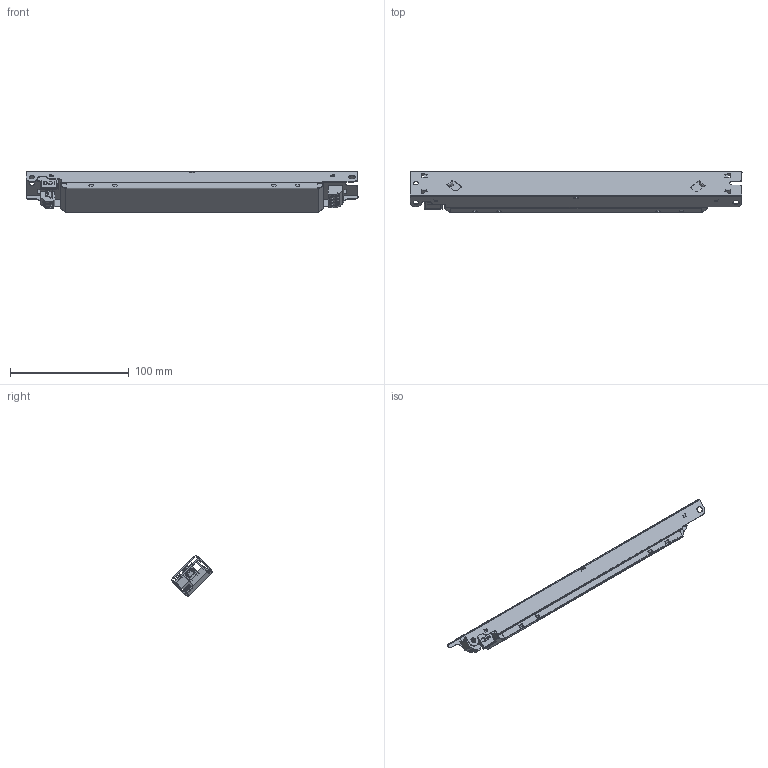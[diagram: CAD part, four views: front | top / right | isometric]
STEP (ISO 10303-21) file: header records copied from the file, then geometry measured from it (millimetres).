
FILE_DESCRIPTION (( 'STEP AP203' ), '1' );
FILE_NAME ('LL50SE-FD.STEP', '2020-03-16T08:25:35', ( '' ), ( '' ), 'SwSTEP 2.0', 'SolidWorks 2014', '' );
FILE_SCHEMA (( 'CONFIG_CONTROL_DESIGN' ));
Length unit declared in the file: millimetre
Products named in the file (8): D007920_cover 16mm; akselikokeilu; 4n; 2n; nfc_antenni; LL50SE-FD; PCB_256; 353620450
Assembly tree (7 placements, depth 2):
  LL50SE-FD
    akselikokeilu
    D007920_cover 16mm
    PCB_256
    4n
    2n
    353620450
    nfc_antenni
Bounding box: 280 x 35.32 x 35.22 mm (x, y, z)
Volume: 28303.2 mm3; surface area: 73242.6 mm2
Topology: 7 solids, 7 shells, 1341 faces, 3521 edges, 2229 vertices
Faces by surface type: plane 915, cylinder 352, bspline 36, torus 16, cone 12, sphere 10
Entity records: 42364 total; most frequent: CARTESIAN_POINT 8571, ORIENTED_EDGE 7026, DIRECTION 6550, EDGE_CURVE 3513, VECTOR 2610, LINE 2610, VERTEX_POINT 2225, AXIS2_PLACEMENT_3D 1970
